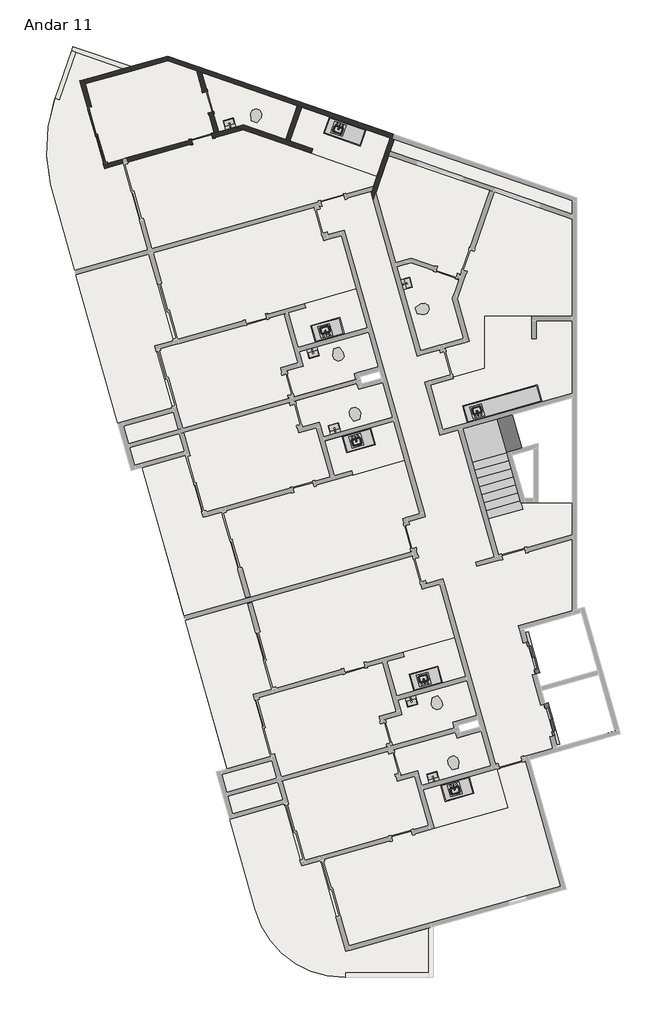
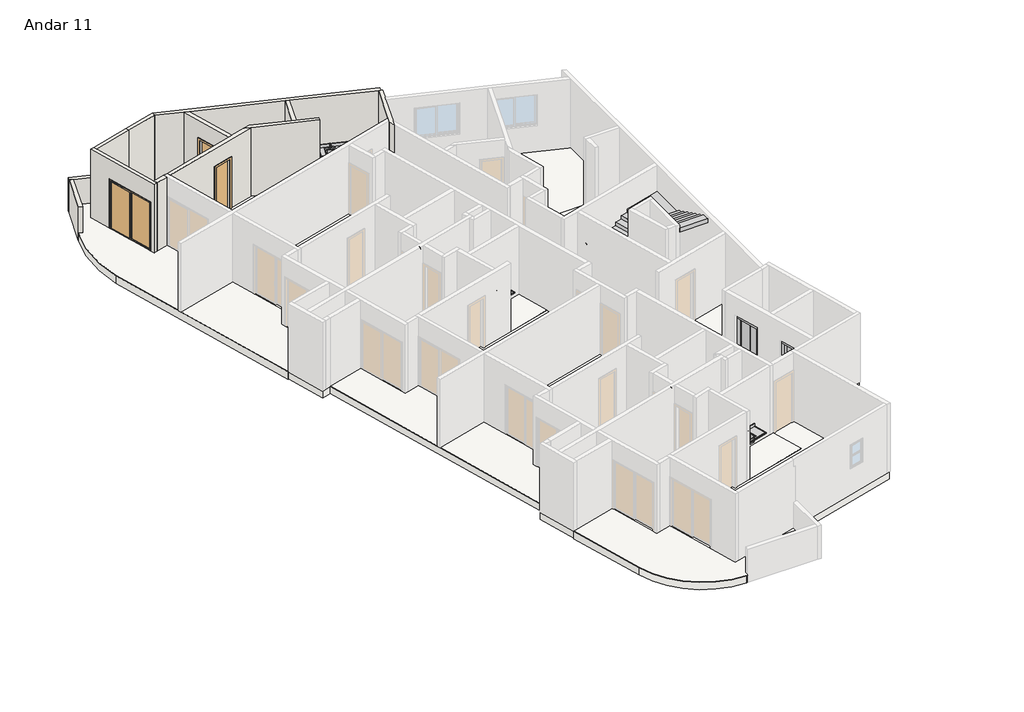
# One storey, part 3 of 3: 18 flow terminals, 18 slabs, 12 walls, 8 proxies, 3 doors, 1 stair flight.
"""IFC4 building model written with IfcOpenShell, lengths in millimetres."""

from ifc_helpers import new_model, si_unit, point, frame, frame_2d, origin, place, context, project, spatial, polyline, circle_curve, trimmed, segment, composite_curve, outline, extrude, faceted_brep, transform, mapped, element, save
from components import specialty_equipment_6c35da8b, specialty_equipment_77dfa124, rf_bancada_cozinha_rf_bancada_cozinha_340fef9f, rf_bancada_cozinha_rf_bancada_cozinha_cfb88ba1, rf_bancada_cozinha_rf_bancada_cozinha_2f873929, rf_bancada_cozinha_rf_bancada_cozinha_798ceddf, p3_70cm_ef4d15e3, p3_70cm_0a698c7c, p4_correr_200cm_eaaa0877, flow_terminal_cab7bae2, flow_terminal_3fb7dc42, flow_terminal_e42b9071, flow_terminal_c6e042c4, ap_01_creme_cr37_13e02e03, ap_01_creme_cr37_5ce6e54d

model = new_model("IFC4")

# Units and contexts
model_context = context("Model", 3, world=origin())
ifc_project = project(units=[si_unit("LENGTHUNIT", "METRE", prefix="MILLI")], contexts=[model_context])

# Site, building, storey
site = spatial("IfcSite", under=ifc_project)
building = spatial("IfcBuilding", under=site)
storey = spatial("IfcBuildingStorey", under=building, Name="Andar 11", Elevation=82650.0)

# Proxies
placement = place(None, origin())
specialty_equipment_shape = specialty_equipment_6c35da8b(model_context)
element("IfcBuildingElementProxy", 1, Name="Porta do elevador : Porta do elevador", ObjectType="Porta do elevador : Porta do elevador", at=placement, inside=storey, context=model_context, shape_type="MappedRepresentation", body=[
    mapped(specialty_equipment_shape, transform((-76594.4337486, 15747.4543727, 82650.0), x_axis=(0.27176796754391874, -0.9623628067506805, 0.0), y_axis=(0.9623628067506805, 0.27176796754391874, 0.0), z_axis=(0.0, 0.0, 1.0))),
])
specialty_equipment_2_shape = specialty_equipment_77dfa124(model_context)
element("IfcBuildingElementProxy", 2, Name="Porta do elevador : Porta do elevador", ObjectType="Porta do elevador : Porta do elevador", at=placement, inside=storey, context=model_context, shape_type="MappedRepresentation", body=[
    mapped(specialty_equipment_2_shape, transform((-75942.1906265, 13437.7836365, 82650.0), x_axis=(-0.27176796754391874, 0.9623628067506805, 0.0), y_axis=(-0.9623628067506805, -0.27176796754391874, 0.0), z_axis=(0.0, 0.0, 1.0))),
])
rf_bancada_cozinha_rf_bancada_cozinha_shape = rf_bancada_cozinha_rf_bancada_cozinha_340fef9f(model_context)
element("IfcBuildingElementProxy", 3, Name="RF_Bancada Cozinha : RF_Bancada Cozinha", ObjectType="RF_Bancada Cozinha : RF_Bancada Cozinha", at=placement, inside=storey, context=model_context, shape_type="MappedRepresentation", body=[
    mapped(rf_bancada_cozinha_rf_bancada_cozinha_shape, transform((-82760.548019, 26451.5820971, 83400.0), x_axis=(-0.9623628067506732, -0.27176796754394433, 0.0), y_axis=(0.27176796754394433, -0.9623628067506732, 0.0), z_axis=(0.0, 0.0, 1.0))),
])
element("IfcBuildingElementProxy", 4, Name="RF_Bancada Cozinha : RF_Bancada Cozinha", ObjectType="RF_Bancada Cozinha : RF_Bancada Cozinha", at=placement, inside=storey, context=model_context, shape_type="MappedRepresentation", body=[
    mapped(rf_bancada_cozinha_rf_bancada_cozinha_shape, transform((-79472.1556117, 14806.9921354, 83400.0), x_axis=(-0.962362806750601, -0.2717679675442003, 0.0), y_axis=(0.2717679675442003, -0.962362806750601, 0.0), z_axis=(0.0, 0.0, 1.0))),
])
rf_bancada_cozinha_rf_bancada_cozinha_2_shape = rf_bancada_cozinha_rf_bancada_cozinha_cfb88ba1(model_context)
element("IfcBuildingElementProxy", 5, Name="RF_Bancada Cozinha : RF_Bancada Cozinha", ObjectType="RF_Bancada Cozinha : RF_Bancada Cozinha", at=placement, inside=storey, context=model_context, shape_type="MappedRepresentation", body=[
    mapped(rf_bancada_cozinha_rf_bancada_cozinha_2_shape, transform((-81877.3021245, 23323.9029751, 83400.0), x_axis=(-0.9623628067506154, -0.27176796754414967, 0.0), y_axis=(0.27176796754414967, -0.9623628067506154, 0.0), z_axis=(0.0, 0.0, 1.0))),
])
element("IfcBuildingElementProxy", 6, Name="RF_Bancada Cozinha : RF_Bancada Cozinha", ObjectType="RF_Bancada Cozinha : RF_Bancada Cozinha", at=placement, inside=storey, context=model_context, shape_type="MappedRepresentation", body=[
    mapped(rf_bancada_cozinha_rf_bancada_cozinha_2_shape, transform((-78588.9097172, 11679.3130134, 83400.0), x_axis=(-0.9623628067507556, -0.27176796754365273, 0.0), y_axis=(0.27176796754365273, -0.9623628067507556, 0.0), z_axis=(0.0, 0.0, 1.0))),
])
rf_bancada_cozinha_rf_bancada_cozinha_3_shape = rf_bancada_cozinha_rf_bancada_cozinha_2f873929(model_context)
element("IfcBuildingElementProxy", 7, Name="RF_Bancada Cozinha : RF_Bancada Cozinha", ObjectType="RF_Bancada Cozinha : RF_Bancada Cozinha", at=placement, inside=storey, context=model_context, shape_type="MappedRepresentation", body=[
    mapped(rf_bancada_cozinha_rf_bancada_cozinha_3_shape, transform((-82030.0326121, 33293.9830661, 83400.0), x_axis=(-0.9449109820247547, 0.32732741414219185, 0.0), y_axis=(-0.32732741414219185, -0.9449109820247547, 0.0), z_axis=(0.0, 0.0, 1.0))),
])
rf_bancada_cozinha_rf_bancada_cozinha_4_shape = rf_bancada_cozinha_rf_bancada_cozinha_798ceddf(model_context)
element("IfcBuildingElementProxy", 8, Name="RF_Bancada Cozinha : RF_Bancada Cozinha", ObjectType="RF_Bancada Cozinha : RF_Bancada Cozinha", at=placement, inside=storey, context=model_context, shape_type="MappedRepresentation", body=[
    mapped(rf_bancada_cozinha_rf_bancada_cozinha_4_shape, transform((-76157.6622331, 24197.9763092, 83400.0), x_axis=(-0.9623628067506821, -0.27176796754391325, 0.0), y_axis=(0.27176796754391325, -0.9623628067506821, 0.0), z_axis=(0.0, 0.0, 1.0))),
])

# Doors
p3_70cm_shape = p3_70cm_ef4d15e3(model_context)
element("IfcDoor", 9, ObjectType="M_Folha única1 : P3 - 70CM", at=placement, inside=storey, context=model_context, shape_type="MappedRepresentation", body=[
    mapped(p3_70cm_shape, transform((-87513.806232, 32980.5300491, 82650.0), x_axis=(0.9623628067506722, 0.2717679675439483, 0.0), y_axis=(-0.2717679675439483, 0.9623628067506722, 0.0), z_axis=(0.0, 0.0, 1.0))),
])
p3_70cm_2_shape = p3_70cm_0a698c7c(model_context)
element("IfcDoor", 10, ObjectType="M_Folha única1 : P3 - 70CM", at=placement, inside=storey, context=model_context, shape_type="MappedRepresentation", body=[
    mapped(p3_70cm_2_shape, transform((-87314.304722, 34205.8663896, 82650.0), x_axis=(-0.2717679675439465, 0.9623628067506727, 0.0), y_axis=(-0.9623628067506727, -0.2717679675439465, 0.0), z_axis=(0.0, 0.0, 1.0))),
])
p4_correr_200cm_shape = p4_correr_200cm_eaaa0877(model_context)
element("IfcDoor", 11, ObjectType="Porta de correr dupla envidraçada sem revestimento : P4 - CORRER - 200CM", at=placement, inside=storey, context=model_context, shape_type="MappedRepresentation", body=[
    mapped(p4_correr_200cm_shape, transform((-91005.8131296, 33111.4415743, 82650.0), x_axis=(0.2717679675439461, -0.9623628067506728, 0.0), y_axis=(0.9623628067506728, 0.2717679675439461, 0.0), z_axis=(0.0, 0.0, 1.0))),
])

# Flow terminals
flow_terminal_shape = flow_terminal_cab7bae2(model_context)
element("IfcFlowTerminal", 12, ObjectType="RF_Pias : Pia da Bancada", at=placement, inside=storey, context=model_context, shape_type="MappedRepresentation", body=[
    mapped(flow_terminal_shape, transform((-83380.5102831, 26570.4992214, 82502.9), x_axis=(-0.9623628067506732, -0.27176796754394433, 0.0), y_axis=(0.27176796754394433, -0.9623628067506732, 0.0), z_axis=(0.0, 0.0, 1.0))),
])
element("IfcFlowTerminal", 13, ObjectType="RF_Pias : Pia da Bancada", at=placement, inside=storey, context=model_context, shape_type="MappedRepresentation", body=[
    mapped(flow_terminal_shape, transform((-80092.1178758, 14925.9092597, 82502.9), x_axis=(-0.962362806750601, -0.2717679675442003, 0.0), y_axis=(0.2717679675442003, -0.962362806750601, 0.0), z_axis=(0.0, 0.0, 1.0))),
])
element("IfcFlowTerminal", 14, ObjectType="RF_Pias : Pia da Bancada", at=placement, inside=storey, context=model_context, shape_type="MappedRepresentation", body=[
    mapped(flow_terminal_shape, transform((-78306.8185143, 23885.0542694, 82502.9), x_axis=(-0.9623628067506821, -0.27176796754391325, 0.0), y_axis=(0.27176796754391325, -0.9623628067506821, 0.0), z_axis=(0.0, 0.0, 1.0))),
])
flow_terminal_2_shape = flow_terminal_3fb7dc42(model_context)
element("IfcFlowTerminal", 15, ObjectType="Deca_Cuba de Apoio Retangular_L7300 : L.7300.17_Branco Gelo GE17", at=placement, inside=storey, context=model_context, shape_type="MappedRepresentation", body=[
    mapped(flow_terminal_2_shape, transform((-83090.0822283, 23308.7374016, 83400.0), x_axis=(-0.9623628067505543, -0.2717679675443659, 0.0), y_axis=(0.2717679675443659, -0.9623628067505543, 0.0), z_axis=(0.0, 0.0, 1.0))),
])
element("IfcFlowTerminal", 16, ObjectType="Deca_Cuba de Apoio Retangular_L7300 : L.7300.17_Branco Gelo GE17", at=placement, inside=storey, context=model_context, shape_type="MappedRepresentation", body=[
    mapped(flow_terminal_2_shape, transform((-79801.689821, 11664.1474399, 83400.0), x_axis=(-0.9623628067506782, -0.2717679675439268, 0.0), y_axis=(0.2717679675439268, -0.9623628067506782, 0.0), z_axis=(0.0, 0.0, 1.0))),
])
element("IfcFlowTerminal", 17, ObjectType="Deca_Cuba de Apoio Retangular_L7300 : L.7300.17_Branco Gelo GE17", at=placement, inside=storey, context=model_context, shape_type="MappedRepresentation", body=[
    mapped(flow_terminal_2_shape, transform((-80677.0991462, 28154.8020678, 83400.0), x_axis=(-0.2717679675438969, 0.9623628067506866, 0.0), y_axis=(-0.9623628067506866, -0.2717679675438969, 0.0), z_axis=(0.0, 0.0, 1.0))),
])
element("IfcFlowTerminal", 18, ObjectType="Deca_Cuba de Apoio Retangular_L7300 : L.7300.17_Branco Gelo GE17", at=placement, inside=storey, context=model_context, shape_type="MappedRepresentation", body=[
    mapped(flow_terminal_2_shape, transform((-86597.4204814, 33488.7004496, 83400.0), x_axis=(-0.9623628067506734, -0.27176796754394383, 0.0), y_axis=(0.27176796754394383, -0.9623628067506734, 0.0), z_axis=(0.0, 0.0, 1.0))),
])
flow_terminal_3_shape = flow_terminal_e42b9071(model_context)
element("IfcFlowTerminal", 19, ObjectType="Deca_Cuba de Apoio Retangular_L7300 : L.7300.17_Branco Gelo GE17", at=placement, inside=storey, context=model_context, shape_type="MappedRepresentation", body=[
    mapped(flow_terminal_3_shape, transform((-83802.1143033, 25830.1279553, 83400.0), x_axis=(-0.9623628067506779, -0.2717679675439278, 0.0), y_axis=(0.2717679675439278, -0.9623628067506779, 0.0), z_axis=(0.0, 0.0, 1.0))),
])
element("IfcFlowTerminal", 20, ObjectType="Deca_Cuba de Apoio Retangular_L7300 : L.7300.17_Branco Gelo GE17", at=placement, inside=storey, context=model_context, shape_type="MappedRepresentation", body=[
    mapped(flow_terminal_3_shape, transform((-80513.721896, 14185.5379936, 83400.0), x_axis=(-0.962362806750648, -0.27176796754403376, 0.0), y_axis=(0.27176796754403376, -0.962362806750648, 0.0), z_axis=(0.0, 0.0, 1.0))),
])
flow_terminal_4_shape = flow_terminal_c6e042c4(model_context)
element("IfcFlowTerminal", 21, ObjectType="RF_Pias : Pia da Bancada", at=placement, inside=storey, context=model_context, shape_type="MappedRepresentation", body=[
    mapped(flow_terminal_4_shape, transform((-82343.483233, 22898.2626745, 82502.9), x_axis=(-0.9623628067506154, -0.27176796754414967, 0.0), y_axis=(0.27176796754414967, -0.9623628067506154, 0.0), z_axis=(0.0, 0.0, 1.0))),
])
element("IfcFlowTerminal", 22, ObjectType="RF_Pias : Pia da Bancada", at=placement, inside=storey, context=model_context, shape_type="MappedRepresentation", body=[
    mapped(flow_terminal_4_shape, transform((-79055.0908257, 11253.6727129, 82502.9), x_axis=(-0.9623628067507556, -0.27176796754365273, 0.0), y_axis=(0.27176796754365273, -0.9623628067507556, 0.0), z_axis=(0.0, 0.0, 1.0))),
])
element("IfcFlowTerminal", 23, ObjectType="RF_Pias : Pia da Bancada", at=placement, inside=storey, context=model_context, shape_type="MappedRepresentation", body=[
    mapped(flow_terminal_4_shape, transform((-82939.3392028, 33309.5545572, 82502.9), x_axis=(-0.9449109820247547, 0.32732741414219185, 0.0), y_axis=(-0.32732741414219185, -0.9449109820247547, 0.0), z_axis=(0.0, 0.0, 1.0))),
])
ap_01_creme_cr37_shape = ap_01_creme_cr37_13e02e03(model_context)
element("IfcFlowTerminal", 24, ObjectType="Deca_Shared_Assento_P.900 : AP.01_Creme CR37", at=placement, inside=storey, context=model_context, shape_type="MappedRepresentation", body=[
    mapped(ap_01_creme_cr37_shape, transform((-83017.5301151, 25983.4740486, 83037.8723674), x_axis=(0.9623628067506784, 0.2717679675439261, 0.0), y_axis=(0.0, 0.0, 1.0), z_axis=(0.2717679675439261, -0.9623628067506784, 0.0))),
])
element("IfcFlowTerminal", 25, ObjectType="Deca_Shared_Assento_P.900 : AP.01_Creme CR37", at=placement, inside=storey, context=model_context, shape_type="MappedRepresentation", body=[
    mapped(ap_01_creme_cr37_shape, transform((-79729.1377078, 14338.8840869, 83037.8723674), x_axis=(0.962362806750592, 0.2717679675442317, 0.0), y_axis=(0.0, 0.0, 1.0), z_axis=(0.2717679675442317, -0.962362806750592, 0.0))),
])
element("IfcFlowTerminal", 26, ObjectType="Deca_Shared_Assento_P.900 : AP.01_Creme CR37", at=placement, inside=storey, context=model_context, shape_type="MappedRepresentation", body=[
    mapped(ap_01_creme_cr37_shape, transform((-80349.5164684, 27236.3600819, 83037.8723674), x_axis=(-0.271767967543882, 0.9623628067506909, 0.0), y_axis=(0.0, 0.0, 1.0), z_axis=(0.9623628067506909, 0.271767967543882, 0.0))),
])
element("IfcFlowTerminal", 27, ObjectType="Deca_Shared_Assento_P.900 : AP.01_Creme CR37", at=placement, inside=storey, context=model_context, shape_type="MappedRepresentation", body=[
    mapped(ap_01_creme_cr37_shape, transform((-85777.8760768, 33566.4131555, 83037.8723674), x_axis=(-0.9449109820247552, 0.3273274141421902, 0.0), y_axis=(0.0, 0.0, 1.0000000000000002), z_axis=(0.3273274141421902, 0.9449109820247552, 0.0))),
])
ap_01_creme_cr37_2_shape = ap_01_creme_cr37_5ce6e54d(model_context)
element("IfcFlowTerminal", 28, ObjectType="Deca_Shared_Assento_P.900 : AP.01_Creme CR37", at=placement, inside=storey, context=model_context, shape_type="MappedRepresentation", body=[
    mapped(ap_01_creme_cr37_2_shape, transform((-82341.1813229, 23588.4422577, 83037.8723674), x_axis=(0.9623628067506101, 0.27176796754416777, 0.0), y_axis=(0.0, 0.0, -1.0), z_axis=(-0.27176796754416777, 0.9623628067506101, 0.0))),
])
element("IfcFlowTerminal", 29, ObjectType="Deca_Shared_Assento_P.900 : AP.01_Creme CR37", at=placement, inside=storey, context=model_context, shape_type="MappedRepresentation", body=[
    mapped(ap_01_creme_cr37_2_shape, transform((-79052.7889156, 11943.852296, 83037.8723674), x_axis=(0.9623628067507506, 0.2717679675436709, 0.0), y_axis=(0.0, 0.0, -1.0000000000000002), z_axis=(-0.2717679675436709, 0.9623628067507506, 0.0))),
])

# Slabs
element("IfcSlab", 30, ObjectType="TZ_Piso de Áreas Molhadas", at=placement, inside=storey, context=model_context, shape_type="SweptSolid", body=[
    extrude(outline(composite_curve([segment(polyline([(-90765.4571774, 31984.341749), (-90143.7425806, 32159.9118263), (-89328.438678, 29272.823406), (-91766.0080564, 28584.4621444), (-92573.2320087, 31442.9384962)]), True, "CONTINUOUS"), segment(trimmed(circle_curve(frame_2d((-87414.5556743, 32622.5665107)), 5291.829908), [point((-92573.2320087, 31442.9384962))], [point((-92422.0860726, 34333.7366032))], False, "CARTESIAN"), True, "CONTINUOUS"), segment(polyline([(-92422.0860726, 34333.7366032), (-92280.2794148, 34284.6132387), (-91729.7010481, 35873.9929322), (-90151.0501028, 35327.1311202), (-91594.3494784, 34919.5483093), (-90765.4571774, 31984.341749)]), True, "CONTINUOUS")], self_intersect=False)), frame((0.0, 0.0, 82650.0), z_axis=(0.0, 0.0, 1.0), x_axis=(1.0, 0.0, 0.0)), (0.0, 0.0, 1.0), 20.0),
])
element("IfcSlab", 31, ObjectType="TZ_Piso de Áreas Molhadas", at=placement, inside=storey, context=model_context, shape_type="SweptSolid", body=[
    extrude(outline(polyline([(-88472.3695802, 26241.3805647), (-89094.084177, 26065.8104874), (-88509.7830468, 23996.7304529), (-90325.6378284, 23483.9392686), (-91725.2428613, 28440.1077234), (-89287.6734828, 29128.468985), (-88472.3695802, 26241.3805647)])), frame((0.0, 0.0, 82650.0), z_axis=(0.0, 0.0, 1.0), x_axis=(1.0, 0.0, 0.0)), (0.0, 0.0, 1.0), 20.0),
])
element("IfcSlab", 32, ObjectType="TZ_Piso de Áreas Molhadas", at=placement, inside=storey, context=model_context, shape_type="SweptSolid", body=[
    extrude(outline(polyline([(-86855.3501733, 20515.3218645), (-86040.0462707, 17628.2334443), (-88109.1263052, 17043.9323141), (-89508.731338, 22000.1007688), (-88061.3659003, 22408.8318218), (-87477.0647701, 20339.7517872), (-86855.3501733, 20515.3218645)])), frame((0.0, 0.0, 82650.0), z_axis=(0.0, 0.0, 1.0), x_axis=(1.0, 0.0, 0.0)), (0.0, 0.0, 1.0), 20.0),
])
element("IfcSlab", 33, ObjectType="TZ_Piso de Áreas Molhadas", at=placement, inside=storey, context=model_context, shape_type="SweptSolid", body=[
    extrude(outline(polyline([(-78926.5637691, 28284.9851582), (-79146.9727346, 27648.7205404), (-78771.1333302, 26317.8283554), (-80214.6775403, 25910.176404), (-81004.3851492, 28706.6252933), (-80530.2499593, 28840.5194505), (-78926.5637691, 28284.9851582)])), frame((0.0, 0.0, 82650.0), z_axis=(0.0, 0.0, 1.0), x_axis=(1.0, 0.0, 0.0)), (0.0, 0.0, 1.0), 20.0),
])
element("IfcSlab", 34, ObjectType="TZ_Piso de Áreas Molhadas", at=placement, inside=storey, context=model_context, shape_type="SweptSolid", body=[
    extrude(outline(polyline([(-78070.9150345, 27060.8243598), (-76493.6479314, 27060.8243598), (-76493.6479314, 26310.8243598), (-76343.6479314, 26310.8243598), (-76343.6479314, 26910.8243598), (-75147.8282189, 26910.8243598), (-75147.8282189, 24483.4871675), (-79467.3156296, 23263.6786855), (-79888.5559793, 24755.3410359), (-79127.7601479, 24970.1871785), (-79141.3485461, 25018.3053183), (-78070.9150345, 25320.5920836), (-78070.9150345, 27060.8243598)])), frame((0.0, 0.0, 82650.0), z_axis=(0.0, 0.0, 1.0), x_axis=(1.0, 0.0, 0.0)), (0.0, 0.0, 1.0), 20.0),
])
element("IfcSlab", 35, ObjectType="TZ_Piso de Áreas Molhadas", at=placement, inside=storey, context=model_context, shape_type="SweptSolid", body=[
    extrude(outline(polyline([(-84719.4810559, 32955.6762822), (-86137.8721095, 33447.0223292), (-86956.7711455, 33215.7680402), (-87515.4733556, 35194.1992432), (-84326.6881589, 34089.5694606), (-84719.4810559, 32955.6762822)])), frame((0.0, 0.0, 82650.0), z_axis=(0.0, 0.0, 1.0), x_axis=(1.0, 0.0, 0.0)), (0.0, 0.0, 1.0), 20.0),
])
element("IfcSlab", 36, ObjectType="TZ_Piso de Áreas Molhadas", at=placement, inside=storey, context=model_context, shape_type="SweptSolid", body=[
    extrude(outline(polyline([(-84577.7444086, 32906.57717), (-84184.9515116, 34040.4703485), (-81226.8582774, 33015.7547641), (-81668.7502865, 31740.1249383), (-83870.9147351, 32502.9785914), (-83821.815623, 32644.7152387), (-84577.7444086, 32906.57717)])), frame((0.0, 0.0, 82650.0), z_axis=(0.0, 0.0, 1.0), x_axis=(1.0, 0.0, 0.0)), (0.0, 0.0, 1.0), 20.0),
])
element("IfcSlab", 37, ObjectType="TZ_Piso de Áreas Molhadas", at=placement, inside=storey, context=model_context, shape_type="SweptSolid", body=[
    extrude(outline(polyline([(-81949.8925784, 26524.6420501), (-81623.7710174, 25369.806682), (-82432.1557751, 25141.5215893), (-82377.8021816, 24949.0490279), (-84456.5058441, 24362.030218), (-84701.0970149, 25228.1567441), (-84123.6793309, 25391.2175246), (-84259.5633146, 25872.398928), (-81949.8925784, 26524.6420501)])), frame((0.0, 0.0, 82650.0), z_axis=(0.0, 0.0, 1.0), x_axis=(1.0, 0.0, 0.0)), (0.0, 0.0, 1.0), 20.0),
])
element("IfcSlab", 38, ObjectType="TZ_Piso de Áreas Molhadas", at=placement, inside=storey, context=model_context, shape_type="SweptSolid", body=[
    extrude(outline(polyline([(-84089.7975819, 27479.0039186), (-82357.5445298, 27968.1862602), (-81990.6577736, 26668.9964711), (-84300.3285098, 26016.753349), (-84626.4500708, 27171.5887171), (-84049.0323868, 27334.6494976), (-84089.7975819, 27479.0039186)])), frame((0.0, 0.0, 82650.0), z_axis=(0.0, 0.0, 1.0), x_axis=(1.0, 0.0, 0.0)), (0.0, 0.0, 1.0), 20.0),
])
element("IfcSlab", 39, ObjectType="TZ_Piso de Áreas Molhadas", at=placement, inside=storey, context=model_context, shape_type="SweptSolid", body=[
    extrude(outline(polyline([(-84171.1494782, 23351.5492709), (-84415.740649, 24217.675797), (-82337.0369864, 24804.6946069), (-82282.6833929, 24612.2220455), (-81474.2986352, 24840.5071383), (-81148.1770742, 23685.6717702), (-83457.8478104, 23033.4286481), (-83593.7317942, 23514.6100514), (-84171.1494782, 23351.5492709)])), frame((0.0, 0.0, 82650.0), z_axis=(0.0, 0.0, 1.0), x_axis=(1.0, 0.0, 0.0)), (0.0, 0.0, 1.0), 20.0),
])
element("IfcSlab", 40, ObjectType="TZ_Piso de Áreas Molhadas", at=placement, inside=storey, context=model_context, shape_type="SweptSolid", body=[
    extrude(outline(composite_curve([segment(polyline([(-79945.4990038, 5119.4122055), (-82713.5540687, 5119.4122055), (-82713.5540687, 4969.4122055), (-82751.3896972, 4969.4122055)]), True, "CONTINUOUS"), segment(trimmed(circle_curve(frame_2d((-82751.3896972, 8069.4122055)), 3100.0), [point((-82751.3896972, 4969.4122055))], [point((-85734.7143981, 7226.9315061))], False, "CARTESIAN"), True, "CONTINUOUS"), segment(polyline([(-85734.7143981, 7226.9315061), (-86588.8282733, 10251.4506708), (-84772.9735093, 10764.2419177), (-84188.6722855, 8695.1618243), (-83566.957766, 8870.7319029), (-82710.8885369, 5839.2889958), (-79945.4990038, 6620.2256515), (-79945.4990038, 5119.4122055)]), True, "CONTINUOUS")], self_intersect=False)), frame((0.0, 0.0, 82650.0), z_axis=(0.0, 0.0, 1.0), x_axis=(1.0, 0.0, 0.0)), (0.0, 0.0, 1.0), 20.0),
])
element("IfcSlab", 41, ObjectType="TZ_Piso de Áreas Molhadas", at=placement, inside=storey, context=model_context, shape_type="SweptSolid", body=[
    extrude(outline(polyline([(-78185.906228, 13195.9171766), (-77859.7846669, 12041.0818085), (-80169.4554031, 11388.8386864), (-80305.3393869, 11870.0200898), (-80882.7570709, 11706.9593092), (-81127.3482417, 12573.0858353), (-79048.6445791, 13160.1046452), (-78994.2909856, 12967.6320839), (-78185.906228, 13195.9171766)])), frame((0.0, 0.0, 82650.0), z_axis=(0.0, 0.0, 1.0), x_axis=(1.0, 0.0, 0.0)), (0.0, 0.0, 1.0), 20.0),
])
element("IfcSlab", 42, ObjectType="TZ_Piso de Áreas Molhadas", at=placement, inside=storey, context=model_context, shape_type="SweptSolid", body=[
    extrude(outline(polyline([(-77307.7782946, 10638.3027935), (-79761.8034518, 9945.2944763), (-80128.690208, 11244.4842654), (-77674.6650508, 11937.4925826), (-77307.7782946, 10638.3027935)])), frame((0.0, 0.0, 82650.0), z_axis=(0.0, 0.0, 1.0), x_axis=(1.0, 0.0, 0.0)), (0.0, 0.0, 1.0), 20.0),
])
element("IfcSlab", 43, ObjectType="TZ_Piso de Áreas Molhadas", at=placement, inside=storey, context=model_context, shape_type="SweptSolid", body=[
    extrude(outline(polyline([(-81107.9410005, 23543.1910314), (-80740.5251229, 22242.1275601), (-82472.778175, 21752.9452185), (-82513.5433702, 21897.2996395), (-83090.9610542, 21734.238859), (-83418.0192411, 22888.8089065), (-81107.9410005, 23543.1910314)])), frame((0.0, 0.0, 82650.0), z_axis=(0.0, 0.0, 1.0), x_axis=(1.0, 0.0, 0.0)), (0.0, 0.0, 1.0), 20.0),
])
element("IfcSlab", 44, ObjectType="TZ_Piso de Áreas Molhadas", at=placement, inside=storey, context=model_context, shape_type="SweptSolid", body=[
    extrude(outline(polyline([(-85183.9771729, 14596.790603), (-85805.6917697, 14421.2205257), (-85221.3906395, 12352.1404912), (-86668.7560772, 11943.4094383), (-88068.36111, 16899.5778931), (-85999.2810755, 17483.8790233), (-85183.9771729, 14596.790603)])), frame((0.0, 0.0, 82650.0), z_axis=(0.0, 0.0, 1.0), x_axis=(1.0, 0.0, 0.0)), (0.0, 0.0, 1.0), 20.0),
])
element("IfcSlab", 45, ObjectType="TZ_Piso de Áreas Molhadas", at=placement, inside=storey, context=model_context, shape_type="SweptSolid", body=[
    extrude(outline(polyline([(-81412.7046076, 13583.5667824), (-80835.2869236, 13746.6275629), (-80971.1709074, 14227.8089663), (-78661.5001712, 14880.0520884), (-78335.3786101, 13725.2167203), (-79143.7633678, 13496.9316276), (-79089.4097743, 13304.4590662), (-81168.1134368, 12717.4402563), (-81412.7046076, 13583.5667824)])), frame((0.0, 0.0, 82650.0), z_axis=(0.0, 0.0, 1.0), x_axis=(1.0, 0.0, 0.0)), (0.0, 0.0, 1.0), 20.0),
])
element("IfcSlab", 46, ObjectType="TZ_Piso de Áreas Molhadas", at=placement, inside=storey, context=model_context, shape_type="SweptSolid", body=[
    extrude(outline(polyline([(-78701.7362448, 15022.5328272), (-81012.8731576, 14371.8995868), (-81338.0576635, 15526.9987554), (-80760.6399795, 15690.059536), (-80801.4051746, 15834.413957), (-79069.1521225, 16323.5962985), (-78701.7362448, 15022.5328272)])), frame((0.0, 0.0, 82650.0), z_axis=(0.0, 0.0, 1.0), x_axis=(1.0, 0.0, 0.0)), (0.0, 0.0, 1.0), 20.0),
])
element("IfcSlab", 47, ObjectType="TZ_Laje 30cm", at=placement, inside=storey, context=model_context, shape_type="SweptSolid", body=[
    extrude(outline(composite_curve([segment(polyline([(-82713.5540687, 4969.4122055), (-82751.3896972, 4969.4122055)]), True, "CONTINUOUS"), segment(trimmed(circle_curve(frame_2d((-82751.3896972, 8069.4122055)), 3100.0), [point((-82751.3896972, 4969.4122055))], [point((-85734.7143981, 7226.9315061))], False, "CARTESIAN"), True, "CONTINUOUS"), segment(polyline([(-85734.7143981, 7226.9315061), (-86588.8282747, 10251.4506758), (-86574.3928326, 10255.5271953), (-87018.7334595, 11828.9903844), (-86664.6795577, 11928.9739962), (-89512.8078575, 22014.5362109), (-89866.8617594, 21914.5525991), (-90311.2023863, 23488.0157882), (-90325.6378284, 23483.9392686), (-92573.2320087, 31442.9384962)]), True, "CONTINUOUS"), segment(trimmed(circle_curve(frame_2d((-87414.5556743, 32622.5665107)), 5291.829908), [point((-92573.2320087, 31442.9384962))], [point((-92426.4466323, 34320.9224218))], False, "CARTESIAN"), True, "CONTINUOUS"), segment(polyline([(-92426.4466323, 34320.9224218), (-92422.0160621, 34333.7123509), (-92403.1178425, 34327.1658026), (-91809.986912, 36039.3839237), (-89899.2062586, 35377.468778), (-88658.6666899, 35727.7929124), (-75017.8282189, 31002.4584964), (-75017.8282189, 17238.3098681), (-74750.7083414, 17313.7436086), (-73565.8000029, 13117.8417711), (-76592.4310301, 12263.1315132), (-75369.6745845, 7933.2050117), (-79815.4990038, 6677.7193903), (-79815.4990038, 4989.4122055), (-82713.5540687, 4989.4122055), (-82713.5540687, 4969.4122055)]), True, "CONTINUOUS")], self_intersect=False), holes=[polyline([(-81583.0058223, 25225.452261), (-82247.0361589, 25037.9323634), (-82179.094167, 24797.3416617), (-81515.0638304, 24984.8615593), (-81583.0058223, 25225.452261)]), polyline([(-78294.613415, 13580.8622993), (-78958.6437516, 13393.3424017), (-78890.7017597, 13152.7517), (-78226.6714231, 13340.2715976), (-78294.613415, 13580.8622993)]), polyline([(-74840.4856705, 17153.3066079), (-76760.3994699, 16611.1295126), (-76221.8794944, 14704.1660107), (-75646.150803, 12665.442005), (-73726.2370035, 13207.6191002), (-74270.7319215, 15135.7405865), (-74840.4856705, 17153.3066079)]), polyline([(-77952.9130698, 20291.1915783), (-76801.2963825, 20616.4041949), (-76858.5413412, 20819.1154254), (-75147.8282189, 20819.1154254), (-75147.8282189, 24343.0530162), (-78807.9060206, 23309.4595541), (-77952.9130698, 20291.1915783)])]), frame((0.0, 0.0, 82350.0), z_axis=(0.0, 0.0, 1.0), x_axis=(1.0, 0.0, 0.0)), (0.0, 0.0, 1.0), 300.0),
])

# Stair flight
element("IfcStairFlight", 48, ObjectType="Profundidade de 150mm", at=placement, inside=storey, context=model_context, shape_type="Brep", body=[
    faceted_brep([(-78029.0944782, 20560.1246789, 82788.0952381), (-77952.7808761, 20290.7249124, 82788.0952381), (-76802.2714069, 20616.6328483, 82788.0952381), (-76878.3664628, 20886.0945229, 82788.0952381), (-78029.0944782, 20560.1246789, 82650.0), (-77952.7808761, 20290.7249124, 82650.0), (-76802.2714069, 20616.6328483, 82650.0), (-76878.3664628, 20886.0945229, 82650.0), (-78105.4080802, 20829.5244453, 82926.1904762), (-78029.0944782, 20560.1246789, 82926.1904762), (-76878.3664628, 20886.0945229, 82926.1904762), (-76954.4615188, 21155.5561975, 82926.1904762), (-78105.4080802, 20829.5244453, 82758.939228), (-78045.2065482, 20617.0029783, 82650.0), (-76894.4323913, 20942.985893, 82650.0), (-76954.4615188, 21155.5561975, 82758.939228), (-78181.7216823, 21098.9242117, 83064.2857143), (-78105.4080802, 20829.5244453, 83064.2857143), (-76954.4615188, 21155.5561975, 83064.2857143), (-77030.5565747, 21425.017872, 83064.2857143), (-78181.7216823, 21098.9242117, 82897.0344661), (-77030.5565747, 21425.017872, 82897.0344661), (-78258.0352843, 21368.3239781, 83202.3809524), (-78181.7216823, 21098.9242117, 83202.3809524), (-77030.5565747, 21425.017872, 83202.3809524), (-77106.6516307, 21694.4795466, 83202.3809524), (-78258.0352843, 21368.3239781, 83035.1297042), (-77106.6516307, 21694.4795466, 83035.1297042), (-78334.3488864, 21637.7237445, 83340.4761905), (-78258.0352843, 21368.3239781, 83340.4761905), (-77106.6516307, 21694.4795466, 83340.4761905), (-77182.7466866, 21963.9412211, 83340.4761905), (-78334.3488864, 21637.7237445, 83173.2249423), (-77182.7466866, 21963.9412211, 83173.2249423), (-78410.6624885, 21907.1235109, 83478.5714286), (-78334.3488864, 21637.7237445, 83478.5714286), (-77182.7466866, 21963.9412211, 83478.5714286), (-77258.8417426, 22233.4028957, 83478.5714286), (-78410.6624885, 21907.1235109, 83311.3201804), (-77258.8417426, 22233.4028957, 83311.3201804), (-78486.9760905, 22176.5232773, 83616.6666667), (-78410.6624885, 21907.1235109, 83616.6666667), (-77258.8417426, 22233.4028957, 83616.6666667), (-77334.9367985, 22502.8645702, 83616.6666667), (-78486.9760905, 22176.5232773, 83449.4154185), (-77334.9367985, 22502.8645702, 83449.4154185), (-77650.6473278, 23620.8332322, 83754.7619048), (-78803.8582924, 23295.1703972, 83754.7619048), (-78572.8230038, 22479.5772253, 83754.7619048), (-78486.9760905, 22176.5232773, 83754.7619048), (-77334.9367985, 22502.8645702, 83754.7619048), (-77337.6544782, 22512.4881983, 83754.7619048), (-77650.6473278, 23620.8332322, 83604.7619048), (-78803.8582924, 23295.1703972, 83604.7619048), (-78572.8230038, 22479.5772253, 83604.7619048), (-77420.5378643, 22805.9881601, 83604.7619048), (-77337.6544782, 22512.4881983, 83604.7619048), (-77650.6473278, 23620.8332322, 83892.8571429), (-77337.6544782, 22512.4881983, 83892.8571429), (-77303.5536842, 22522.118146, 83892.8571429), (-77083.6709973, 22584.2122653, 83892.8571429), (-77396.6638468, 23692.5572992, 83892.8571429), (-77616.5465338, 23630.4631799, 83892.8571429), (-77396.6638468, 23692.5572992, 83719.0904432), (-77616.5465338, 23630.4631799, 83604.7619048), (-77303.5536842, 22522.118146, 83604.7619048), (-77083.6709973, 22584.2122653, 83719.0904432), (-77127.202261, 23768.6523301, 84030.952381), (-77396.6638468, 23692.5572992, 84030.952381), (-77083.6709973, 22584.2122653, 84030.952381), (-76814.2094114, 22660.3072962, 84030.952381), (-77127.202261, 23768.6523301, 83859.1976509), (-76814.2094114, 22660.3072962, 83859.1976509), (-76857.7406751, 23844.747361, 84169.047619), (-77127.202261, 23768.6523301, 84169.047619), (-76814.2094114, 22660.3072962, 84169.047619), (-76544.7478255, 22736.4023271, 84169.047619), (-76857.7406751, 23844.747361, 83999.3048586), (-76544.7478255, 22736.4023271, 83999.3048586), (-76588.2790892, 23920.842392, 84307.1428571), (-76857.7406751, 23844.747361, 84307.1428571), (-76544.7478255, 22736.4023271, 84307.1428571), (-76275.2862396, 22812.497358, 84307.1428571), (-76588.2790892, 23920.842392, 84139.4120663), (-75975.593386, 22897.1295956, 84295.2380952), (-76275.2862396, 22812.497358, 84295.2380952), (-75147.8282189, 22779.1154254, 84445.2380952), (-75147.8282189, 24327.6207947, 84445.2380952), (-76288.5862355, 24005.4746296, 84445.2380952), (-76588.2790892, 23920.842392, 84445.2380952), (-76275.2862396, 22812.497358, 84445.2380952), (-76275.2862396, 22779.1154254, 84445.2380952), (-75147.8282189, 22779.1154254, 84295.2380952), (-75147.8282189, 24327.6207947, 84295.2380952), (-76288.5862355, 24005.4746296, 84295.2380952), (-76275.2862396, 22779.1154254, 84295.2380952), (-75147.8282189, 22779.1154254, 84583.3333333), (-76275.2862396, 22779.1154254, 84583.3333333), (-76275.2862396, 22744.1370326, 84583.3333333), (-76275.2862396, 22499.1154254, 84583.3333333), (-75147.8282189, 22499.1154254, 84583.3333333), (-75147.8282189, 22744.1370326, 84583.3333333), (-75147.8282189, 22499.1154254, 84416.0820852), (-75147.8282189, 22744.1370326, 84295.2380952), (-76275.2862396, 22744.1370326, 84295.2380952), (-76275.2862396, 22499.1154254, 84416.0820852), (-75147.8282189, 22219.1154254, 84721.4285714), (-75147.8282189, 22499.1154254, 84721.4285714), (-76275.2862396, 22499.1154254, 84721.4285714), (-76275.2862396, 22219.1154254, 84721.4285714), (-75147.8282189, 22219.1154254, 84554.1773233), (-76275.2862396, 22219.1154254, 84554.1773233), (-75147.8282189, 21939.1154254, 84859.5238095), (-75147.8282189, 22219.1154254, 84859.5238095), (-76275.2862396, 22219.1154254, 84859.5238095), (-76275.2862396, 21939.1154254, 84859.5238095), (-75147.8282189, 21939.1154254, 84692.2725614), (-76275.2862396, 21939.1154254, 84692.2725614), (-75147.8282189, 21659.1154254, 84997.6190476), (-75147.8282189, 21939.1154254, 84997.6190476), (-76275.2862396, 21939.1154254, 84997.6190476), (-76275.2862396, 21659.1154254, 84997.6190476), (-75147.8282189, 21659.1154254, 84830.3677995), (-76275.2862396, 21659.1154254, 84830.3677995), (-75147.8282189, 21379.1154254, 85135.7142857), (-75147.8282189, 21659.1154254, 85135.7142857), (-76275.2862396, 21659.1154254, 85135.7142857), (-76275.2862396, 21379.1154254, 85135.7142857), (-75147.8282189, 21379.1154254, 84968.4630376), (-76275.2862396, 21379.1154254, 84968.4630376), (-75147.8282189, 21099.1154254, 85273.8095238), (-75147.8282189, 21379.1154254, 85273.8095238), (-76275.2862396, 21379.1154254, 85273.8095238), (-76275.2862396, 21099.1154254, 85273.8095238), (-75147.8282189, 21099.1154254, 85106.5582757), (-76275.2862396, 21099.1154254, 85106.5582757), (-75147.8282189, 20819.1154254, 85411.9047619), (-75147.8282189, 21099.1154254, 85411.9047619), (-76275.2862396, 21099.1154254, 85411.9047619), (-76275.2862396, 20819.1154254, 85411.9047619), (-75147.8282189, 20819.1154254, 85244.6535138), (-76275.2862396, 20819.1154254, 85244.6535138), (-76275.2862396, 23958.3777566, 84295.2380952)], [[[0, 1, 2, 3]], [[1, 0, 4, 5]], [[2, 1, 5, 6]], [[3, 2, 6, 7]], [[8, 9, 10, 11]], [[4, 0, 9, 8, 12, 13]], [[0, 3, 10, 9]], [[3, 7, 14, 15, 11, 10]], [[16, 17, 18, 19]], [[17, 16, 20, 12, 8]], [[8, 11, 18, 17]], [[19, 18, 11, 15, 21]], [[22, 23, 24, 25]], [[23, 22, 26, 20, 16]], [[16, 19, 24, 23]], [[25, 24, 19, 21, 27]], [[28, 29, 30, 31]], [[29, 28, 32, 26, 22]], [[22, 25, 30, 29]], [[31, 30, 25, 27, 33]], [[34, 35, 36, 37]], [[35, 34, 38, 32, 28]], [[28, 31, 36, 35]], [[37, 36, 31, 33, 39]], [[40, 41, 42, 43]], [[41, 40, 44, 38, 34]], [[34, 37, 42, 41]], [[43, 42, 37, 39, 45]], [[46, 47, 48, 49, 50, 51]], [[47, 46, 52, 53]], [[40, 49, 48, 47, 53, 54, 44]], [[40, 43, 50, 49]], [[51, 50, 43, 45, 55, 56]], [[57, 58, 59, 60, 61, 62]], [[46, 57, 62, 61, 63, 64, 52]], [[46, 51, 58, 57]], [[58, 51, 56, 65, 66, 60, 59]], [[67, 68, 69, 70]], [[68, 67, 71, 63, 61]], [[61, 60, 69, 68]], [[70, 69, 60, 66, 72]], [[73, 74, 75, 76]], [[74, 73, 77, 71, 67]], [[67, 70, 75, 74]], [[76, 75, 70, 72, 78]], [[79, 80, 81, 82]], [[80, 79, 83, 77, 73]], [[73, 76, 81, 80]], [[82, 81, 76, 78, 84, 85]], [[86, 87, 88, 89, 90, 91]], [[87, 86, 92, 93]], [[79, 89, 88, 87, 93, 94, 83]], [[79, 82, 90, 89]], [[91, 90, 82, 85, 95]], [[96, 97, 98, 99, 100, 101]], [[86, 96, 101, 100, 102, 103, 92]], [[86, 91, 97, 96]], [[97, 91, 95, 104, 105, 99, 98]], [[106, 107, 108, 109]], [[107, 106, 110, 102, 100]], [[100, 99, 108, 107]], [[109, 108, 99, 105, 111]], [[112, 113, 114, 115]], [[113, 112, 116, 110, 106]], [[106, 109, 114, 113]], [[115, 114, 109, 111, 117]], [[118, 119, 120, 121]], [[119, 118, 122, 116, 112]], [[112, 115, 120, 119]], [[121, 120, 115, 117, 123]], [[124, 125, 126, 127]], [[125, 124, 128, 122, 118]], [[118, 121, 126, 125]], [[127, 126, 121, 123, 129]], [[130, 131, 132, 133]], [[131, 130, 134, 128, 124]], [[124, 127, 132, 131]], [[133, 132, 127, 129, 135]], [[136, 137, 138, 139]], [[137, 136, 140, 134, 130]], [[130, 133, 138, 137]], [[139, 138, 133, 135, 141]], [[136, 139, 141, 140]], [[5, 4, 13, 14, 7, 6]], [[54, 55, 45, 39, 33, 27, 21, 15, 14, 13, 12, 20, 26, 32, 38, 44]], [[55, 54, 53, 52, 64, 65, 56]], [[65, 64, 63, 71, 77, 83, 94, 142, 84, 78, 72, 66]], [[142, 94, 93, 92, 103, 104, 95, 85, 84]], [[104, 103, 102, 110, 116, 122, 128, 134, 140, 141, 135, 129, 123, 117, 111, 105]]]),
])

# Walls
element("IfcWall", 49, ObjectType="Básica .15 - Externa", at=placement, inside=storey, context=model_context, shape_type="Brep", body=[
    faceted_brep([(-88662.6343714, 35591.588263, 82650.0), (-87688.240739, 35254.0477389, 82650.0), (-87515.4733556, 35194.1992432, 82650.0), (-84326.6881589, 34089.5694606, 82650.0), (-84184.9515116, 34040.4703485, 82650.0), (-81226.8582774, 33015.7547641, 82650.0), (-81156.3583355, 32991.3328194, 82650.0), (-81156.3583355, 32991.3328194, 83950.0), (-81085.1216301, 32966.655652, 83950.0), (-81085.1216301, 32966.655652, 85250.0), (-81156.3583355, 32991.3328194, 85250.0), (-81156.3583355, 32991.3328194, 85550.0), (-81226.8582774, 33015.7547641, 85550.0), (-84184.9515116, 34040.4703485, 85550.0), (-84326.6881589, 34089.5694606, 85550.0), (-87515.4733556, 35194.1992432, 85550.0), (-87688.240739, 35254.0477389, 85550.0), (-88662.6343714, 35591.588263, 85550.0), (-88658.0562773, 35748.7474739, 82650.0), (-88658.0562773, 35748.7474739, 85550.0), (-81107.2592234, 33133.0694667, 85550.0), (-81107.2592234, 33133.0694667, 85250.0), (-81036.022518, 33108.3922993, 85250.0), (-81036.022518, 33108.3922993, 83950.0), (-81107.2592234, 33133.0694667, 83950.0), (-81107.2592234, 33133.0694667, 82650.0)], [[[0, 1, 2, 3, 4, 5, 6, 7, 8, 9, 10, 11, 12, 13, 14, 15, 16, 17]], [[18, 19, 20, 21, 22, 23, 24, 25]], [[6, 5, 4, 3, 2, 1, 0, 18, 25]], [[17, 16, 15, 14, 13, 12, 11, 20, 19]], [[0, 17, 19, 18]], [[7, 6, 25, 24]], [[23, 8, 7, 24]], [[11, 10, 21, 20]], [[21, 10, 9, 22]], [[9, 8, 23, 22]]]),
])
element("IfcWall", 50, ObjectType="Básica .15 -  Interna", at=placement, inside=storey, context=model_context, shape_type="Brep", body=[
    faceted_brep([(-81789.2550074, 30934.0017027, 82650.0), (-81703.3880158, 31181.8778654, 82650.0), (-81272.8781344, 32424.6503839, 82650.0), (-81223.7790223, 32566.3870312, 82650.0), (-81085.1216301, 32966.655652, 82650.0), (-81085.1216301, 32966.655652, 83950.0), (-81085.1216301, 32966.655652, 85250.0), (-81085.1216301, 32966.655652, 85550.0), (-81223.7790223, 32566.3870312, 85550.0), (-81272.8781344, 32424.6503839, 85550.0), (-81703.3880158, 31181.8778654, 85550.0), (-81789.2550074, 30934.0017027, 85550.0), (-81860.5472267, 31186.4559595, 82650.0), (-81860.5472267, 31186.4559595, 85550.0), (-81845.4155775, 31230.1371819, 85550.0), (-81785.5670817, 31402.9045654, 85550.0), (-81226.8582774, 33015.7547641, 85550.0), (-81226.8582774, 33015.7547641, 82650.0), (-81785.5670817, 31402.9045654, 82650.0), (-81845.4155775, 31230.1371819, 82650.0), (-81156.3583355, 32991.3328194, 82650.0), (-81156.3583355, 32991.3328194, 85550.0)], [[[0, 1, 2, 3, 4, 5, 6, 7, 8, 9, 10, 11]], [[12, 13, 14, 15, 16, 17, 18, 19]], [[4, 3, 2, 1, 0, 12, 19, 18, 17, 20]], [[11, 10, 9, 8, 7, 21, 16, 15, 14, 13]], [[0, 11, 13, 12]], [[4, 20, 17, 16, 21, 7, 6, 5]]]),
])
element("IfcWall", 51, ObjectType="Básica .15 -  Interna", at=placement, inside=storey, context=model_context, shape_type="Brep", body=[
    faceted_brep([(-91449.9950574, 34960.3135045, 85550.0), (-91409.2298622, 34815.9590835, 85550.0), (-90661.8679515, 32169.4613651, 85550.0), (-90621.1027564, 32025.1069441, 85550.0), (-90621.1027564, 32025.1069441, 82650.0), (-90661.8679515, 32169.4613651, 82650.0), (-90661.8679515, 32169.4613651, 84750.0), (-91205.4038866, 34094.1869786, 84750.0), (-91205.4038866, 34094.1869786, 82650.0), (-91409.2298622, 34815.9590835, 82650.0), (-91449.9950574, 34960.3135045, 82650.0), (-90765.4571774, 31984.341749, 85550.0), (-91594.3494784, 34919.5483093, 85550.0), (-91594.3494784, 34919.5483093, 82650.0), (-91349.7583076, 34053.4217835, 82650.0), (-91349.7583076, 34053.4217835, 84750.0), (-90806.2223725, 32128.69617, 84750.0), (-90806.2223725, 32128.69617, 82650.0), (-90765.4571774, 31984.341749, 82650.0)], [[[0, 1, 2, 3, 4, 5, 6, 7, 8, 9, 10]], [[11, 12, 13, 14, 15, 16, 17, 18]], [[4, 18, 17, 5]], [[13, 10, 9, 8, 14]], [[3, 2, 1, 0, 12, 11]], [[4, 3, 11, 18]], [[16, 6, 5, 17]], [[6, 16, 15, 7]], [[7, 15, 14, 8]], [[0, 10, 13, 12]]]),
])
element("IfcWall", 52, ObjectType="Básica .15 - Externa", at=placement, inside=storey, context=model_context, shape_type="Brep", body=[
    faceted_brep([(-91871.4376954, 35923.0920443, 82350.0), (-91729.7010481, 35873.9929322, 82350.0), (-90151.0501028, 35327.1311202, 82350.0), (-90151.0501028, 35327.1311202, 83750.0), (-91729.7010481, 35873.9929322, 83750.0), (-91871.4376954, 35923.0920443, 83750.0), (-91822.3385833, 36064.8286916, 82350.0), (-91822.3385833, 36064.8286916, 83750.0), (-89898.595846, 35398.4233395, 83750.0), (-89898.595846, 35398.4233395, 82350.0)], [[[0, 1, 2, 3, 4, 5]], [[6, 7, 8, 9]], [[2, 1, 0, 6, 9]], [[5, 4, 3, 8, 7]], [[0, 5, 7, 6]], [[3, 2, 9, 8]]]),
])
element("IfcWall", 53, ObjectType="Básica .15 - Externa", at=placement, inside=storey, context=model_context, shape_type="SweptSolid", body=[
    extrude(outline(polyline([(-91729.7010481, 35873.9929322), (-92280.2794148, 34284.6132387), (-92422.0160621, 34333.7123509), (-91871.4376954, 35923.0920443), (-91729.7010481, 35873.9929322)])), frame((0.0, 0.0, 82350.0), z_axis=(0.0, 0.0, 1.0), x_axis=(1.0, 0.0, 0.0)), (0.0, 0.0, 1.0), 1400.0),
])
element("IfcWall", 54, ObjectType="Básica .15 - Externa", at=placement, inside=storey, context=model_context, shape_type="SweptSolid", body=[
    extrude(outline(polyline([(-89921.2674906, 35392.0209445), (-88658.0562773, 35748.7474739), (-88662.6343714, 35591.588263), (-89880.5022955, 35247.6665235), (-89921.2674906, 35392.0209445)])), frame((0.0, 0.0, 82650.0), z_axis=(0.0, 0.0, 1.0), x_axis=(1.0, 0.0, 0.0)), (0.0, 0.0, 1.0), 2900.0),
])
element("IfcWall", 55, ObjectType="Básica .15 -  Interna", at=placement, inside=storey, context=model_context, shape_type="Brep", body=[
    faceted_brep([(-90184.5077758, 32304.2662473, 82650.0), (-90661.8679515, 32169.4613651, 82650.0), (-90661.8679515, 32169.4613651, 84750.0), (-90661.8679515, 32169.4613651, 85550.0), (-90184.5077758, 32304.2662473, 85550.0), (-90143.7425806, 32159.9118263, 82650.0), (-90143.7425806, 32159.9118263, 84750.0), (-90143.7425806, 32159.9118263, 85550.0), (-90621.1027564, 32025.1069441, 85550.0), (-90621.1027564, 32025.1069441, 82650.0)], [[[0, 1, 2, 3, 4]], [[5, 6, 7, 8, 9]], [[1, 0, 5, 9]], [[4, 3, 8, 7]], [[0, 4, 7, 6, 5]], [[3, 2, 1, 9, 8]]]),
])
element("IfcWall", 56, ObjectType="Básica .15 -  Interna", at=placement, inside=storey, context=model_context, shape_type="SweptSolid", body=[
    extrude(outline(polyline([(-91449.9950574, 34960.3135045), (-89921.2674906, 35392.0209445), (-89880.5022955, 35247.6665235), (-91409.2298622, 34815.9590835), (-91449.9950574, 34960.3135045)])), frame((0.0, 0.0, 82650.0), z_axis=(0.0, 0.0, 1.0), x_axis=(1.0, 0.0, 0.0)), (0.0, 0.0, 1.0), 2900.0),
])
element("IfcWall", 57, ObjectType="Básica .15 -  Interna", at=placement, inside=storey, context=model_context, shape_type="Brep", body=[
    faceted_brep([(-83821.815623, 32644.7152387, 82650.0), (-84577.7444086, 32906.57717, 82650.0), (-84719.4810559, 32955.6762822, 82650.0), (-86137.8721095, 33447.0223292, 82650.0), (-86137.8721095, 33447.0223292, 85550.0), (-84719.4810559, 32955.6762822, 85550.0), (-84577.7444086, 32906.57717, 85550.0), (-83821.815623, 32644.7152387, 85550.0), (-83870.9147351, 32502.9785914, 82650.0), (-83870.9147351, 32502.9785914, 85550.0), (-86142.4502035, 33289.8631183, 85550.0), (-86390.3263662, 33375.7301099, 85550.0), (-86390.3263662, 33375.7301099, 82650.0), (-86142.4502035, 33289.8631183, 82650.0)], [[[0, 1, 2, 3, 4, 5, 6, 7]], [[8, 9, 10, 11, 12, 13]], [[3, 2, 1, 0, 8, 13, 12]], [[7, 6, 5, 4, 11, 10, 9]], [[0, 7, 9, 8]], [[4, 3, 12, 11]]]),
])
element("IfcWall", 58, ObjectType="Básica .15 -  Interna", at=placement, inside=storey, context=model_context, shape_type="Brep", body=[
    faceted_brep([(-86390.3263662, 33375.7301099, 82650.0), (-86956.7711455, 33215.7680402, 82650.0), (-87101.1255666, 33175.002845, 82650.0), (-87197.3618472, 33147.8260483, 82650.0), (-87197.3618472, 33147.8260483, 84750.0), (-87871.015812, 32957.588471, 84750.0), (-87871.015812, 32957.588471, 82650.0), (-90040.1533547, 32345.0314424, 82650.0), (-90040.1533547, 32345.0314424, 85550.0), (-87101.1255666, 33175.002845, 85550.0), (-86956.7711455, 33215.7680402, 85550.0), (-86390.3263662, 33375.7301099, 85550.0), (-87156.5966521, 33003.4716273, 84750.0), (-87156.5966521, 33003.4716273, 82650.0), (-86142.4502035, 33289.8631183, 82650.0), (-86142.4502035, 33289.8631183, 85550.0), (-89999.3881596, 32200.6770214, 85550.0), (-89999.3881596, 32200.6770214, 84750.0), (-89999.3881596, 32200.6770214, 82650.0), (-87830.2506168, 32813.23405, 82650.0), (-87830.2506168, 32813.23405, 84750.0)], [[[0, 1, 2, 3, 4, 5, 6, 7, 8, 9, 10, 11]], [[12, 13, 14, 15, 16, 17, 18, 19, 20]], [[19, 18, 7, 6]], [[14, 13, 3, 2, 1, 0]], [[11, 10, 9, 8, 16, 15]], [[4, 3, 13, 12]], [[5, 4, 12, 20]], [[6, 5, 20, 19]], [[0, 11, 15, 14]], [[8, 7, 18, 17, 16]]]),
])
element("IfcWall", 59, ObjectType="Básica .15 -  Interna", at=placement, inside=storey, context=model_context, shape_type="SweptSolid", body=[
    extrude(outline(polyline([(-84184.9515116, 34040.4703485), (-84577.7444086, 32906.57717), (-84719.4810559, 32955.6762822), (-84326.6881589, 34089.5694606), (-84184.9515116, 34040.4703485)])), frame((0.0, 0.0, 82650.0), z_axis=(0.0, 0.0, 1.0), x_axis=(1.0, 0.0, 0.0)), (0.0, 0.0, 1.0), 2900.0),
])
element("IfcWall", 60, ObjectType="Básica .15 -  Interna", at=placement, inside=storey, context=model_context, shape_type="Brep", body=[
    faceted_brep([(-87337.2463001, 34563.0759696, 84750.0), (-87337.2463001, 34563.0759696, 82650.0), (-87515.4733556, 35194.1992432, 82650.0), (-87515.4733556, 35194.1992432, 85550.0), (-86956.7711455, 33215.7680402, 85550.0), (-86956.7711455, 33215.7680402, 82650.0), (-87147.0087228, 33889.4220048, 82650.0), (-87147.0087228, 33889.4220048, 84750.0), (-87688.240739, 35254.0477389, 82650.0), (-87481.6007211, 34522.3107744, 82650.0), (-87481.6007211, 34522.3107744, 84750.0), (-87291.3631438, 33848.6568097, 84750.0), (-87291.3631438, 33848.6568097, 82650.0), (-87101.1255666, 33175.002845, 82650.0), (-87101.1255666, 33175.002845, 85550.0), (-87688.240739, 35254.0477389, 85550.0)], [[[0, 1, 2, 3, 4, 5, 6, 7]], [[8, 9, 10, 11, 12, 13, 14, 15]], [[6, 5, 13, 12]], [[2, 1, 9, 8]], [[4, 3, 15, 14]], [[10, 9, 1, 0]], [[11, 10, 0, 7]], [[12, 11, 7, 6]], [[5, 4, 14, 13]], [[3, 2, 8, 15]]]),
])

save(model, "model.ifc")
